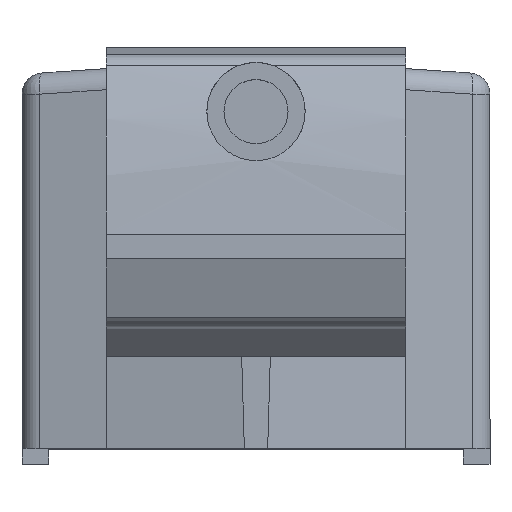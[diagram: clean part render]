
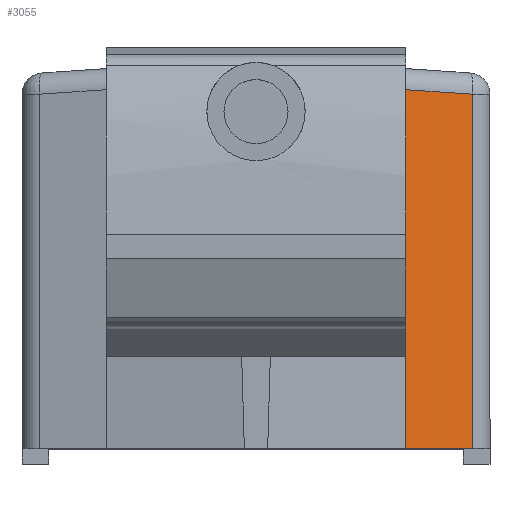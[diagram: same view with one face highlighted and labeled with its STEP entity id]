
A CAD part, top view. The second image highlights one B-rep face of the part: STEP entity #3055.
In plain terms, the highlighted planar face has unit normal (0.171, 0, 0.985).
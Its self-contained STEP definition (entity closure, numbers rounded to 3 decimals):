
#17 = CARTESIAN_POINT ( 'NONE',  ( 220.152, -167.25, 25.171 ) ) ;
#25 = VECTOR ( 'NONE', #1247, 1000. ) ;
#46 = PLANE ( 'NONE',  #808 ) ;
#239 = CARTESIAN_POINT ( 'NONE',  ( 220.152, -153.35, 25.171 ) ) ;
#322 = ORIENTED_EDGE ( 'NONE', *, *, #487, .F. ) ;
#404 = EDGE_CURVE ( 'NONE', #1443, #646, #687, .T. ) ;
#487 = EDGE_CURVE ( 'NONE', #646, #2096, #2553, .T. ) ;
#505 = EDGE_CURVE ( 'NONE', #2096, #996, #3094, .T. ) ;
#561 = DIRECTION ( 'NONE',  ( -0.985, 0., 0.171 ) ) ;
#646 = VERTEX_POINT ( 'NONE', #2280 ) ;
#686 = EDGE_CURVE ( 'NONE', #996, #1443, #798, .T. ) ;
#687 = LINE ( 'NONE', #2847, #1248 ) ;
#708 = EDGE_LOOP ( 'NONE', ( #747, #3155, #1518, #322 ) ) ;
#747 = ORIENTED_EDGE ( 'NONE', *, *, #404, .F. ) ;
#750 = CARTESIAN_POINT ( 'NONE',  ( 189.621, -118.164, 30.469 ) ) ;
#798 = LINE ( 'NONE', #3021, #2694 ) ;
#808 = AXIS2_PLACEMENT_3D ( 'NONE', #1280, #1769, #561 ) ;
#977 = CARTESIAN_POINT ( 'NONE',  ( 213.932, -153.35, 26.251 ) ) ;
#996 = VERTEX_POINT ( 'NONE', #239 ) ;
#1247 = DIRECTION ( 'NONE',  ( 0., -1., 0. ) ) ;
#1248 = VECTOR ( 'NONE', #2080, 1000. ) ;
#1280 = CARTESIAN_POINT ( 'NONE',  ( 233.11, -167.25, 22.923 ) ) ;
#1376 = VECTOR ( 'NONE', #2451, 1000. ) ;
#1443 = VERTEX_POINT ( 'NONE', #977 ) ;
#1518 = ORIENTED_EDGE ( 'NONE', *, *, #505, .F. ) ;
#1568 = FACE_OUTER_BOUND ( 'NONE', #708, .T. ) ;
#1769 = DIRECTION ( 'NONE',  ( -0.171, 0., -0.985 ) ) ;
#2070 = CARTESIAN_POINT ( 'NONE',  ( 220.152, -120.202, 25.171 ) ) ;
#2080 = DIRECTION ( 'NONE',  ( 0., 1., 0. ) ) ;
#2096 = VERTEX_POINT ( 'NONE', #2070 ) ;
#2103 = DIRECTION ( 'NONE',  ( -0.985, 0., 0.171 ) ) ;
#2280 = CARTESIAN_POINT ( 'NONE',  ( 213.932, -119.787, 26.251 ) ) ;
#2451 = DIRECTION ( 'NONE',  ( 0.983, -0.066, -0.171 ) ) ;
#2553 = LINE ( 'NONE', #750, #1376 ) ;
#2694 = VECTOR ( 'NONE', #2103, 1000. ) ;
#2847 = CARTESIAN_POINT ( 'NONE',  ( 213.932, -167.25, 26.251 ) ) ;
#3021 = CARTESIAN_POINT ( 'NONE',  ( 233.11, -153.35, 22.923 ) ) ;
#3055 = ADVANCED_FACE ( 'NONE', ( #1568 ), #46, .F. ) ;
#3094 = LINE ( 'NONE', #17, #25 ) ;
#3155 = ORIENTED_EDGE ( 'NONE', *, *, #686, .F. ) ;
